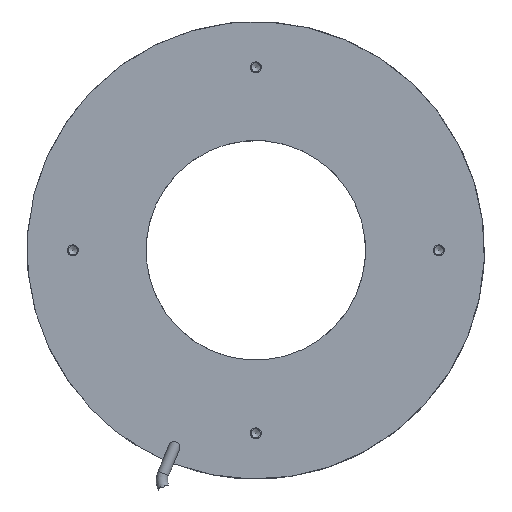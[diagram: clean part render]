
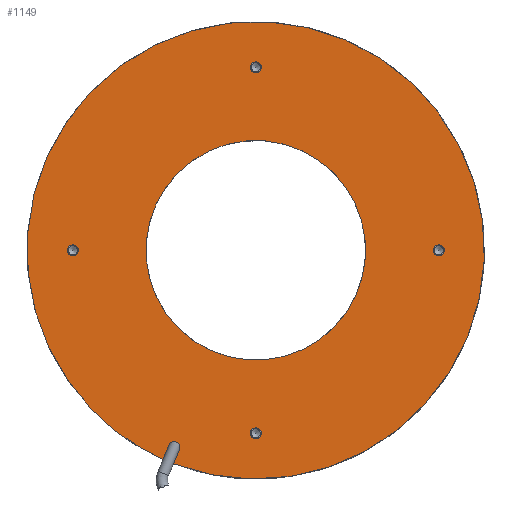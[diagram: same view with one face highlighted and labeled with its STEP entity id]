
A CAD part, front view. The second image highlights one B-rep face of the part: STEP entity #1149.
In plain terms, the highlighted planar face has unit normal (0, -1, 0).
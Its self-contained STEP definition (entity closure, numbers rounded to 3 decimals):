
#32=FACE_BOUND('',#174,.T.);
#33=FACE_BOUND('',#175,.T.);
#34=FACE_BOUND('',#176,.T.);
#35=FACE_BOUND('',#177,.T.);
#36=FACE_BOUND('',#178,.T.);
#62=PLANE('',#1289);
#107=FACE_OUTER_BOUND('',#173,.T.);
#173=EDGE_LOOP('',(#871,#872,#873,#874,#875));
#174=EDGE_LOOP('',(#876,#877));
#175=EDGE_LOOP('',(#878,#879));
#176=EDGE_LOOP('',(#880,#881));
#177=EDGE_LOOP('',(#882,#883));
#178=EDGE_LOOP('',(#884,#885));
#244=CIRCLE('',#1235,62.5);
#245=CIRCLE('',#1236,62.5);
#251=CIRCLE('',#1246,1.5);
#252=CIRCLE('',#1247,1.5);
#258=CIRCLE('',#1256,1.5);
#259=CIRCLE('',#1257,1.5);
#265=CIRCLE('',#1266,1.5);
#266=CIRCLE('',#1267,1.5);
#272=CIRCLE('',#1276,1.5);
#273=CIRCLE('',#1277,1.5);
#274=CIRCLE('',#1279,30.);
#275=CIRCLE('',#1280,30.);
#278=CIRCLE('',#1285,1.6);
#334=LINE('',#1962,#383);
#353=LINE('',#2073,#402);
#383=VECTOR('',#1451,1000.);
#402=VECTOR('',#1574,1000.);
#459=VERTEX_POINT('',#1932);
#460=VERTEX_POINT('',#1934);
#463=VERTEX_POINT('',#1957);
#464=VERTEX_POINT('',#1961);
#472=VERTEX_POINT('',#1982);
#473=VERTEX_POINT('',#1984);
#480=VERTEX_POINT('',#2003);
#481=VERTEX_POINT('',#2005);
#488=VERTEX_POINT('',#2024);
#489=VERTEX_POINT('',#2026);
#496=VERTEX_POINT('',#2045);
#497=VERTEX_POINT('',#2047);
#498=VERTEX_POINT('',#2051);
#499=VERTEX_POINT('',#2052);
#502=VERTEX_POINT('',#2063);
#591=EDGE_CURVE('',#460,#459,#244,.T.);
#595=EDGE_CURVE('',#459,#463,#245,.T.);
#596=EDGE_CURVE('',#464,#460,#334,.T.);
#607=EDGE_CURVE('',#472,#473,#251,.T.);
#608=EDGE_CURVE('',#473,#472,#252,.T.);
#617=EDGE_CURVE('',#480,#481,#258,.T.);
#618=EDGE_CURVE('',#481,#480,#259,.T.);
#627=EDGE_CURVE('',#488,#489,#265,.T.);
#628=EDGE_CURVE('',#489,#488,#266,.T.);
#637=EDGE_CURVE('',#496,#497,#272,.T.);
#638=EDGE_CURVE('',#497,#496,#273,.T.);
#639=EDGE_CURVE('',#498,#499,#274,.T.);
#640=EDGE_CURVE('',#499,#498,#275,.T.);
#645=EDGE_CURVE('',#502,#464,#278,.T.);
#650=EDGE_CURVE('',#502,#463,#353,.T.);
#871=ORIENTED_EDGE('',*,*,#650,.F.);
#872=ORIENTED_EDGE('',*,*,#645,.T.);
#873=ORIENTED_EDGE('',*,*,#596,.T.);
#874=ORIENTED_EDGE('',*,*,#591,.T.);
#875=ORIENTED_EDGE('',*,*,#595,.T.);
#876=ORIENTED_EDGE('',*,*,#608,.F.);
#877=ORIENTED_EDGE('',*,*,#607,.F.);
#878=ORIENTED_EDGE('',*,*,#618,.F.);
#879=ORIENTED_EDGE('',*,*,#617,.F.);
#880=ORIENTED_EDGE('',*,*,#628,.F.);
#881=ORIENTED_EDGE('',*,*,#627,.F.);
#882=ORIENTED_EDGE('',*,*,#638,.F.);
#883=ORIENTED_EDGE('',*,*,#637,.F.);
#884=ORIENTED_EDGE('',*,*,#639,.T.);
#885=ORIENTED_EDGE('',*,*,#640,.T.);
#1149=ADVANCED_FACE('',(#107,#32,#33,#34,#35,#36),#62,.F.);
#1235=AXIS2_PLACEMENT_3D('',#1935,#1443,#1444);
#1236=AXIS2_PLACEMENT_3D('',#1959,#1447,#1448);
#1246=AXIS2_PLACEMENT_3D('',#1985,#1473,#1474);
#1247=AXIS2_PLACEMENT_3D('',#1986,#1475,#1476);
#1256=AXIS2_PLACEMENT_3D('',#2006,#1496,#1497);
#1257=AXIS2_PLACEMENT_3D('',#2007,#1498,#1499);
#1266=AXIS2_PLACEMENT_3D('',#2027,#1519,#1520);
#1267=AXIS2_PLACEMENT_3D('',#2028,#1521,#1522);
#1276=AXIS2_PLACEMENT_3D('',#2048,#1542,#1543);
#1277=AXIS2_PLACEMENT_3D('',#2049,#1544,#1545);
#1279=AXIS2_PLACEMENT_3D('',#2053,#1548,#1549);
#1280=AXIS2_PLACEMENT_3D('',#2054,#1550,#1551);
#1285=AXIS2_PLACEMENT_3D('',#2064,#1562,#1563);
#1289=AXIS2_PLACEMENT_3D('',#2072,#1572,#1573);
#1443=DIRECTION('center_axis',(0.,-1.,0.));
#1444=DIRECTION('ref_axis',(0.707,0.,0.707));
#1447=DIRECTION('center_axis',(0.,-1.,0.));
#1448=DIRECTION('ref_axis',(0.707,0.,0.707));
#1451=DIRECTION('',(-0.383,0.,-0.924));
#1473=DIRECTION('center_axis',(0.,-1.,0.));
#1474=DIRECTION('ref_axis',(-0.707,0.,-0.707));
#1475=DIRECTION('center_axis',(0.,-1.,0.));
#1476=DIRECTION('ref_axis',(-0.707,0.,-0.707));
#1496=DIRECTION('center_axis',(0.,-1.,0.));
#1497=DIRECTION('ref_axis',(-0.707,0.,-0.707));
#1498=DIRECTION('center_axis',(0.,-1.,0.));
#1499=DIRECTION('ref_axis',(-0.707,0.,-0.707));
#1519=DIRECTION('center_axis',(0.,-1.,0.));
#1520=DIRECTION('ref_axis',(-0.707,0.,-0.707));
#1521=DIRECTION('center_axis',(0.,-1.,0.));
#1522=DIRECTION('ref_axis',(-0.707,0.,-0.707));
#1542=DIRECTION('center_axis',(0.,-1.,0.));
#1543=DIRECTION('ref_axis',(-0.707,0.,-0.707));
#1544=DIRECTION('center_axis',(0.,-1.,0.));
#1545=DIRECTION('ref_axis',(-0.707,0.,-0.707));
#1548=DIRECTION('center_axis',(0.,1.,0.));
#1549=DIRECTION('ref_axis',(0.707,0.,0.707));
#1550=DIRECTION('center_axis',(0.,1.,0.));
#1551=DIRECTION('ref_axis',(0.707,0.,0.707));
#1562=DIRECTION('center_axis',(0.,1.,0.));
#1563=DIRECTION('ref_axis',(0.707,0.,0.707));
#1572=DIRECTION('center_axis',(0.,1.,0.));
#1573=DIRECTION('ref_axis',(0.707,0.,0.707));
#1574=DIRECTION('',(-0.383,0.,-0.924));
#1932=CARTESIAN_POINT('',(-44.194,0.,-44.194));
#1934=CARTESIAN_POINT('',(-22.432,0.,-58.336));
#1935=CARTESIAN_POINT('Origin',(0.,0.,
0.));
#1957=CARTESIAN_POINT('',(-25.388,0.,-57.111));
#1959=CARTESIAN_POINT('Origin',(0.,0.,
0.));
#1961=CARTESIAN_POINT('',(-20.832,0.,-54.474));
#1962=CARTESIAN_POINT('',(32.729,0.,74.833));
#1982=CARTESIAN_POINT('',(1.061,0.,-48.939));
#1984=CARTESIAN_POINT('',(-1.061,0.,-51.061));
#1985=CARTESIAN_POINT('Origin',(0.,0.,
-50.));
#1986=CARTESIAN_POINT('Origin',(0.,0.,
-50.));
#2003=CARTESIAN_POINT('',(-48.939,0.,1.061));
#2005=CARTESIAN_POINT('',(-51.061,0.,-1.061));
#2006=CARTESIAN_POINT('Origin',(-50.,0.,0.));
#2007=CARTESIAN_POINT('Origin',(-50.,0.,0.));
#2024=CARTESIAN_POINT('',(1.061,0.,51.061));
#2026=CARTESIAN_POINT('',(-1.061,0.,48.939));
#2027=CARTESIAN_POINT('Origin',(0.,0.,
50.));
#2028=CARTESIAN_POINT('Origin',(0.,0.,
50.));
#2045=CARTESIAN_POINT('',(51.061,0.,1.061));
#2047=CARTESIAN_POINT('',(48.939,0.,-1.061));
#2048=CARTESIAN_POINT('Origin',(50.,0.,0.));
#2049=CARTESIAN_POINT('Origin',(50.,0.,0.));
#2051=CARTESIAN_POINT('',(21.213,0.,21.213));
#2052=CARTESIAN_POINT('',(-21.213,0.,-21.213));
#2053=CARTESIAN_POINT('Origin',(0.,0.,
0.));
#2054=CARTESIAN_POINT('Origin',(0.,0.,
0.));
#2063=CARTESIAN_POINT('',(-23.789,0.,-53.25));
#2064=CARTESIAN_POINT('Origin',(-22.31,0.,
-53.862));
#2072=CARTESIAN_POINT('Origin',(21.213,0.,-21.213));
#2073=CARTESIAN_POINT('',(29.772,0.,76.058));
